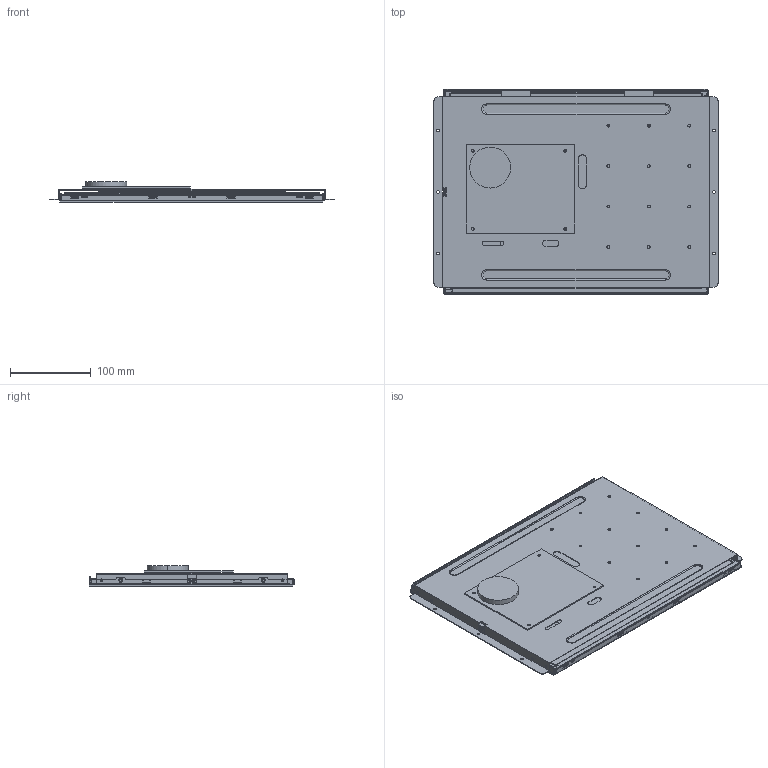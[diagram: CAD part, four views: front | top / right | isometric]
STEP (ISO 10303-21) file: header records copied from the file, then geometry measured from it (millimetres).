
FILE_DESCRIPTION((''),'2;1');
FILE_NAME('3D-DMG10768C150_03WTR','2020-10-10T',('Administrator'),(''),'PRO/ENGINEER BY PARAMETRIC TECHNOLOGY CORPORATION, 2008380','PRO/ENGINEER BY PARAMETRIC TECHNOLOGY CORPORATION, 2008380','');
FILE_SCHEMA(('CONFIG_CONTROL_DESIGN'));
Products named in the file (1): 3D-DMG10768C150_03WTR
Bounding box: 351 x 253.5 x 25.8 mm (x, y, z)
Volume: 484627 mm3; surface area: 756276.4 mm2
Topology: 3 solids, 5 shells, 1758 faces, 17155 edges, 23890 vertices
Faces by surface type: plane 1287, cylinder 388, torus 47, sphere 20, cone 12, bspline 4
Entity records: 172970 total; most frequent: DIRECTION 25047, CARTESIAN_POINT 22827, PRESENTATION_STYLE_ASSIGNMENT 17147, STYLED_ITEM 17147, CURVE_STYLE 17143, VECTOR 12489, LINE 12489, TRIMMED_CURVE 12235
